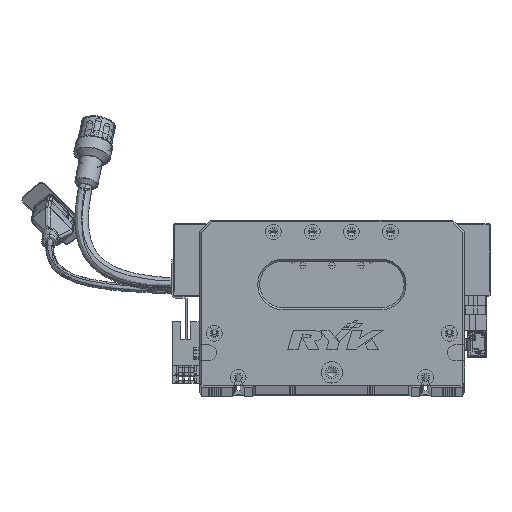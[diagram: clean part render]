
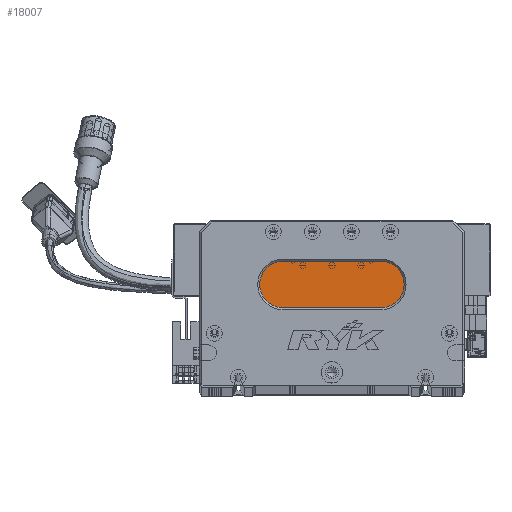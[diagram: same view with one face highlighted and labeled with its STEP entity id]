
A CAD part, top view. The second image highlights one B-rep face of the part: STEP entity #18007.
In plain terms, the highlighted planar face has unit normal (0, 0, 1) as drawn and (0, 0, -1) by its records, which use the part's own axes.
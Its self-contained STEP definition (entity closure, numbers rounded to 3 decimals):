
#1308 = ORIENTED_EDGE ( 'NONE', *, *, #100199, .T. ) ;
#1738 = ORIENTED_EDGE ( 'NONE', *, *, #125703, .T. ) ;
#3733 = AXIS2_PLACEMENT_3D ( 'NONE', #73468, #53276, #125146 ) ;
#9733 = DIRECTION ( 'NONE',  ( -1., 0., 0. ) ) ;
#18007 = ADVANCED_FACE ( 'NONE', ( #30150 ), #33205, .T. ) ;
#19853 = CARTESIAN_POINT ( 'NONE',  ( 43., 40., 13. ) ) ;
#21594 = DIRECTION ( 'NONE',  ( 1., 0., 0. ) ) ;
#23758 = CARTESIAN_POINT ( 'NONE',  ( 93., 52., 13. ) ) ;
#30150 = FACE_OUTER_BOUND ( 'NONE', #58093, .T. ) ;
#32835 = CARTESIAN_POINT ( 'NONE',  ( 93., 64., 13. ) ) ;
#33205 = PLANE ( 'NONE',  #77099 ) ;
#36666 = VERTEX_POINT ( 'NONE', #53837 ) ;
#37991 = CARTESIAN_POINT ( 'NONE',  ( 43., 52., 13. ) ) ;
#40783 = VERTEX_POINT ( 'NONE', #66172 ) ;
#42731 = ORIENTED_EDGE ( 'NONE', *, *, #111160, .T. ) ;
#53276 = DIRECTION ( 'NONE',  ( 0., 0., -1. ) ) ;
#53837 = CARTESIAN_POINT ( 'NONE',  ( 93., 40., 13. ) ) ;
#58093 = EDGE_LOOP ( 'NONE', ( #76506, #42731, #124635, #1738, #1308 ) ) ;
#58312 = DIRECTION ( 'NONE',  ( -1., 0., 0. ) ) ;
#58397 = LINE ( 'NONE', #32835, #64796 ) ;
#61224 = VERTEX_POINT ( 'NONE', #96637 ) ;
#64796 = VECTOR ( 'NONE', #21594, 1000. ) ;
#65166 = VECTOR ( 'NONE', #89789, 1000. ) ;
#66172 = CARTESIAN_POINT ( 'NONE',  ( 43., 64., 13. ) ) ;
#73468 = CARTESIAN_POINT ( 'NONE',  ( 93., 52., 13. ) ) ;
#76506 = ORIENTED_EDGE ( 'NONE', *, *, #76660, .T. ) ;
#76660 = EDGE_CURVE ( 'NONE', #61224, #36666, #81377, .T. ) ;
#77099 = AXIS2_PLACEMENT_3D ( 'NONE', #23758, #94464, #84097 ) ;
#81377 = CIRCLE ( 'NONE', #3733, 12. ) ;
#82192 = CARTESIAN_POINT ( 'NONE',  ( 43., 52., 13. ) ) ;
#82768 = AXIS2_PLACEMENT_3D ( 'NONE', #37991, #110058, #58312 ) ;
#82843 = LINE ( 'NONE', #109609, #65166 ) ;
#83422 = CIRCLE ( 'NONE', #113763, 12. ) ;
#84097 = DIRECTION ( 'NONE',  ( -1., 0., 0. ) ) ;
#89789 = DIRECTION ( 'NONE',  ( -1., 0., 0. ) ) ;
#92563 = DIRECTION ( 'NONE',  ( 0., 0., -1. ) ) ;
#94075 = EDGE_CURVE ( 'NONE', #118382, #106410, #122131, .T. ) ;
#94464 = DIRECTION ( 'NONE',  ( 0., 0., -1. ) ) ;
#96637 = CARTESIAN_POINT ( 'NONE',  ( 93., 64., 13. ) ) ;
#97689 = CARTESIAN_POINT ( 'NONE',  ( 31., 52., 13. ) ) ;
#100199 = EDGE_CURVE ( 'NONE', #40783, #61224, #58397, .T. ) ;
#106410 = VERTEX_POINT ( 'NONE', #97689 ) ;
#109609 = CARTESIAN_POINT ( 'NONE',  ( 93., 40., 13. ) ) ;
#110058 = DIRECTION ( 'NONE',  ( 0., 0., -1. ) ) ;
#111160 = EDGE_CURVE ( 'NONE', #36666, #118382, #82843, .T. ) ;
#113763 = AXIS2_PLACEMENT_3D ( 'NONE', #82192, #92563, #9733 ) ;
#118382 = VERTEX_POINT ( 'NONE', #19853 ) ;
#122131 = CIRCLE ( 'NONE', #82768, 12. ) ;
#124635 = ORIENTED_EDGE ( 'NONE', *, *, #94075, .T. ) ;
#125146 = DIRECTION ( 'NONE',  ( -1., 0., 0. ) ) ;
#125703 = EDGE_CURVE ( 'NONE', #106410, #40783, #83422, .T. ) ;
